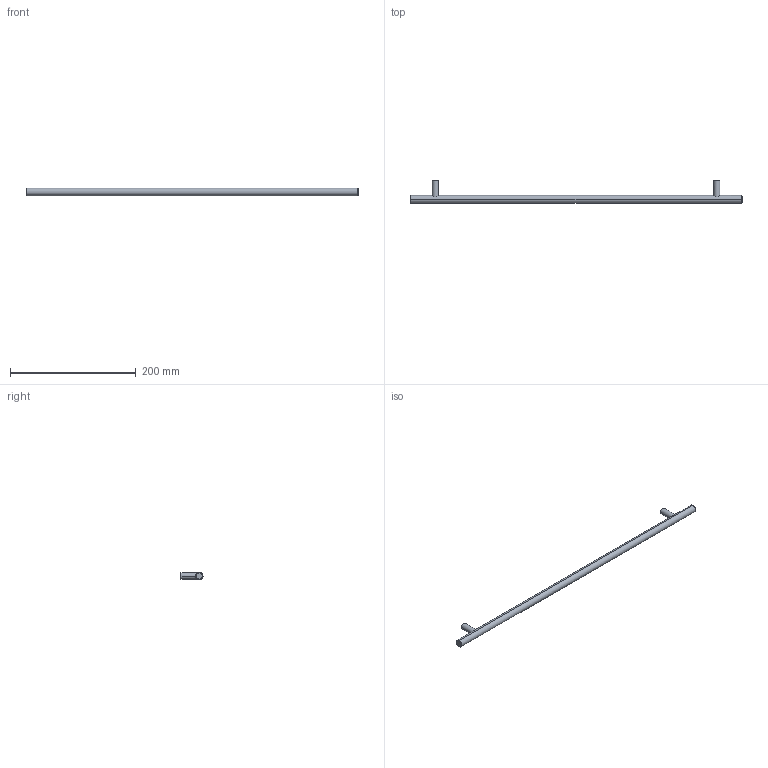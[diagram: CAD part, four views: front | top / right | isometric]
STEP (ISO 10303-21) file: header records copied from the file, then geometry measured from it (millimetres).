
FILE_DESCRIPTION( ( '' ), '1' );
FILE_NAME( 'C:/Documents and Settings/Sachin/Desktop/Sheet 10_1/stp/9070756.stp', '2013-10-22T12:37:41', ( '' ), ( '' ), ' ', ' ', ' ' );
FILE_SCHEMA( ( 'CONFIG_CONTROL_DESIGN' ) );
Length unit declared in the file: millimetre
Products named in the file (1): 1
Bounding box: 528 x 35 x 12 mm (x, y, z)
Volume: 63202.8 mm3; surface area: 21802.9 mm2
Topology: 1 solids, 1 shells, 20 faces, 44 edges, 30 vertices
Faces by surface type: cylinder 10, plane 6, torus 4
Entity records: 738 total; most frequent: CARTESIAN_POINT 229, DIRECTION 108, ORIENTED_EDGE 88, AXIS2_PLACEMENT_3D 49, EDGE_CURVE 44, VERTEX_POINT 30, CIRCLE 28, EDGE_LOOP 24
